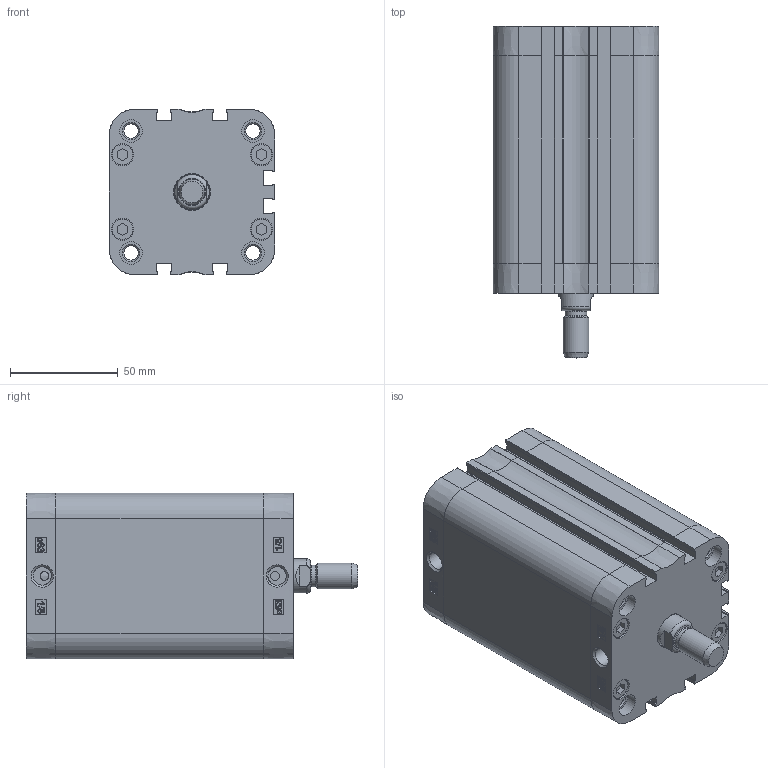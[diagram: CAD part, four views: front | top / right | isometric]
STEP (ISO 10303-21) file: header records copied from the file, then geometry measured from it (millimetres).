
FILE_DESCRIPTION((''),'2;1');
FILE_NAME('T:\Archivio Inventor\- CATALOGHI 2012\SERIE P - NUOVA\PDM\PDM063\PDM063.---.GS.M\PDM063.075.GS.M.stp','2013-02-04T09:28:37',('Administrator'),(''),'Autodesk Inventor 2012','Autodesk Inventor 2012','');
FILE_SCHEMA(('CONFIG_CONTROL_DESIGN'));
Length unit declared in the file: millimetre
Products named in the file (1): PDM063.075.GS.M
Bounding box: 77 x 154 x 77 mm (x, y, z)
Volume: 312748.7 mm3; surface area: 120470.9 mm2
Topology: 1 solids, 5 shells, 824 faces, 1993 edges, 1252 vertices
Faces by surface type: plane 346, bspline 218, cylinder 142, torus 55, cone 45, sphere 18
Full cylindrical faces by diameter (mm): 4 x2, 6.3 x4, 6.647 x8, 8.047 x4, 8.566 x2, 9.8 x8, 10 x1, 10.3 x8, 10.5 x8, 12 x2, 16 x1, 16.5 x1, 63 x1, 65.4 x1, 65.6 x1
Entity records: 27354 total; most frequent: CARTESIAN_POINT 9106, ORIENTED_EDGE 3744, DIRECTION 3031, EDGE_CURVE 1872, VERTEX_POINT 1231, AXIS2_PLACEMENT_3D 1026, EDGE_LOOP 1003, VECTOR 979
